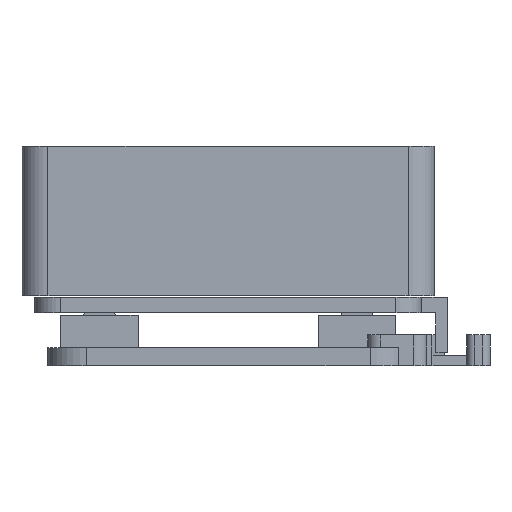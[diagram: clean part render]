
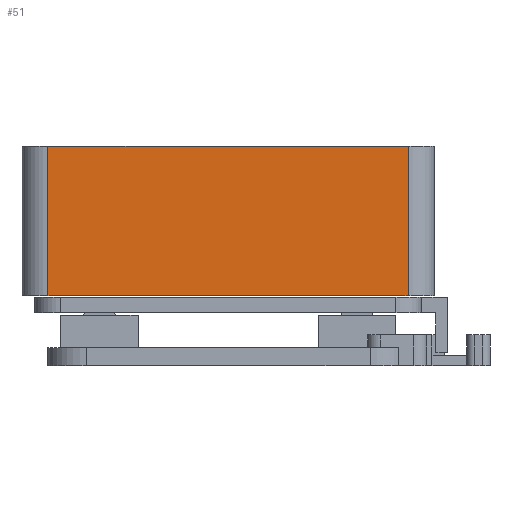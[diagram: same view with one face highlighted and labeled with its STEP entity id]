
A CAD part, left-side view. The second image highlights one B-rep face of the part: STEP entity #51.
In plain terms, the highlighted planar face has unit normal (-1, 0, 0).
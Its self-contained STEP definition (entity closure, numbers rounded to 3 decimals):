
#51 = ADVANCED_FACE('',(#52),#66,.T.);
#52 = FACE_BOUND('',#53,.T.);
#53 = EDGE_LOOP('',(#54,#89,#117,#145,#173,#196));
#54 = ORIENTED_EDGE('',*,*,#55,.T.);
#55 = EDGE_CURVE('',#56,#58,#60,.T.);
#56 = VERTEX_POINT('',#57);
#57 = CARTESIAN_POINT('',(-34.,-14.,0.));
#58 = VERTEX_POINT('',#59);
#59 = CARTESIAN_POINT('',(-34.,-14.,11.6));
#60 = SURFACE_CURVE('',#61,(#65,#77),.PCURVE_S1.);
#61 = LINE('',#62,#63);
#62 = CARTESIAN_POINT('',(-34.,-14.,0.));
#63 = VECTOR('',#64,1.);
#64 = DIRECTION('',(0.,0.,1.));
#65 = PCURVE('',#66,#71);
#66 = PLANE('',#67);
#67 = AXIS2_PLACEMENT_3D('',#68,#69,#70);
#68 = CARTESIAN_POINT('',(-34.,-14.,0.));
#69 = DIRECTION('',(-1.,0.,0.));
#70 = DIRECTION('',(0.,1.,0.));
#71 = DEFINITIONAL_REPRESENTATION('',(#72),#76);
#72 = LINE('',#73,#74);
#73 = CARTESIAN_POINT('',(0.,0.));
#74 = VECTOR('',#75,1.);
#75 = DIRECTION('',(0.,-1.));
#76 = ( GEOMETRIC_REPRESENTATION_CONTEXT(2) 
PARAMETRIC_REPRESENTATION_CONTEXT() REPRESENTATION_CONTEXT('2D SPACE',''
  ) );
#77 = PCURVE('',#78,#83);
#78 = CYLINDRICAL_SURFACE('',#79,2.);
#79 = AXIS2_PLACEMENT_3D('',#80,#81,#82);
#80 = CARTESIAN_POINT('',(-32.,-14.,0.));
#81 = DIRECTION('',(-0.,-0.,-1.));
#82 = DIRECTION('',(1.,0.,0.));
#83 = DEFINITIONAL_REPRESENTATION('',(#84),#88);
#84 = LINE('',#85,#86);
#85 = CARTESIAN_POINT('',(-3.142,0.));
#86 = VECTOR('',#87,1.);
#87 = DIRECTION('',(-0.,-1.));
#88 = ( GEOMETRIC_REPRESENTATION_CONTEXT(2) 
PARAMETRIC_REPRESENTATION_CONTEXT() REPRESENTATION_CONTEXT('2D SPACE',''
  ) );
#89 = ORIENTED_EDGE('',*,*,#90,.T.);
#90 = EDGE_CURVE('',#58,#91,#93,.T.);
#91 = VERTEX_POINT('',#92);
#92 = CARTESIAN_POINT('',(-34.,14.,11.6));
#93 = SURFACE_CURVE('',#94,(#98,#105),.PCURVE_S1.);
#94 = LINE('',#95,#96);
#95 = CARTESIAN_POINT('',(-34.,0.,11.6));
#96 = VECTOR('',#97,1.);
#97 = DIRECTION('',(0.,1.,0.));
#98 = PCURVE('',#66,#99);
#99 = DEFINITIONAL_REPRESENTATION('',(#100),#104);
#100 = LINE('',#101,#102);
#101 = CARTESIAN_POINT('',(14.,-11.6));
#102 = VECTOR('',#103,1.);
#103 = DIRECTION('',(1.,0.));
#104 = ( GEOMETRIC_REPRESENTATION_CONTEXT(2) 
PARAMETRIC_REPRESENTATION_CONTEXT() REPRESENTATION_CONTEXT('2D SPACE',''
  ) );
#105 = PCURVE('',#106,#111);
#106 = PLANE('',#107);
#107 = AXIS2_PLACEMENT_3D('',#108,#109,#110);
#108 = CARTESIAN_POINT('',(1.,0.,11.6));
#109 = DIRECTION('',(0.,0.,1.));
#110 = DIRECTION('',(1.,0.,0.));
#111 = DEFINITIONAL_REPRESENTATION('',(#112),#116);
#112 = LINE('',#113,#114);
#113 = CARTESIAN_POINT('',(-35.,0.));
#114 = VECTOR('',#115,1.);
#115 = DIRECTION('',(0.,1.));
#116 = ( GEOMETRIC_REPRESENTATION_CONTEXT(2) 
PARAMETRIC_REPRESENTATION_CONTEXT() REPRESENTATION_CONTEXT('2D SPACE',''
  ) );
#117 = ORIENTED_EDGE('',*,*,#118,.F.);
#118 = EDGE_CURVE('',#119,#91,#121,.T.);
#119 = VERTEX_POINT('',#120);
#120 = CARTESIAN_POINT('',(-34.,14.,0.));
#121 = SURFACE_CURVE('',#122,(#126,#133),.PCURVE_S1.);
#122 = LINE('',#123,#124);
#123 = CARTESIAN_POINT('',(-34.,14.,0.));
#124 = VECTOR('',#125,1.);
#125 = DIRECTION('',(0.,0.,1.));
#126 = PCURVE('',#66,#127);
#127 = DEFINITIONAL_REPRESENTATION('',(#128),#132);
#128 = LINE('',#129,#130);
#129 = CARTESIAN_POINT('',(28.,0.));
#130 = VECTOR('',#131,1.);
#131 = DIRECTION('',(0.,-1.));
#132 = ( GEOMETRIC_REPRESENTATION_CONTEXT(2) 
PARAMETRIC_REPRESENTATION_CONTEXT() REPRESENTATION_CONTEXT('2D SPACE',''
  ) );
#133 = PCURVE('',#134,#139);
#134 = CYLINDRICAL_SURFACE('',#135,2.);
#135 = AXIS2_PLACEMENT_3D('',#136,#137,#138);
#136 = CARTESIAN_POINT('',(-32.,14.,0.));
#137 = DIRECTION('',(-0.,-0.,-1.));
#138 = DIRECTION('',(1.,0.,0.));
#139 = DEFINITIONAL_REPRESENTATION('',(#140),#144);
#140 = LINE('',#141,#142);
#141 = CARTESIAN_POINT('',(-3.142,0.));
#142 = VECTOR('',#143,1.);
#143 = DIRECTION('',(-0.,-1.));
#144 = ( GEOMETRIC_REPRESENTATION_CONTEXT(2) 
PARAMETRIC_REPRESENTATION_CONTEXT() REPRESENTATION_CONTEXT('2D SPACE',''
  ) );
#145 = ORIENTED_EDGE('',*,*,#146,.F.);
#146 = EDGE_CURVE('',#147,#119,#149,.T.);
#147 = VERTEX_POINT('',#148);
#148 = CARTESIAN_POINT('',(-34.,13.7,0.));
#149 = SURFACE_CURVE('',#150,(#154,#161),.PCURVE_S1.);
#150 = LINE('',#151,#152);
#151 = CARTESIAN_POINT('',(-34.,0.,0.));
#152 = VECTOR('',#153,1.);
#153 = DIRECTION('',(0.,1.,0.));
#154 = PCURVE('',#66,#155);
#155 = DEFINITIONAL_REPRESENTATION('',(#156),#160);
#156 = LINE('',#157,#158);
#157 = CARTESIAN_POINT('',(14.,0.));
#158 = VECTOR('',#159,1.);
#159 = DIRECTION('',(1.,0.));
#160 = ( GEOMETRIC_REPRESENTATION_CONTEXT(2) 
PARAMETRIC_REPRESENTATION_CONTEXT() REPRESENTATION_CONTEXT('2D SPACE',''
  ) );
#161 = PCURVE('',#162,#167);
#162 = PLANE('',#163);
#163 = AXIS2_PLACEMENT_3D('',#164,#165,#166);
#164 = CARTESIAN_POINT('',(1.,0.,0.));
#165 = DIRECTION('',(0.,0.,1.));
#166 = DIRECTION('',(1.,0.,0.));
#167 = DEFINITIONAL_REPRESENTATION('',(#168),#172);
#168 = LINE('',#169,#170);
#169 = CARTESIAN_POINT('',(-35.,0.));
#170 = VECTOR('',#171,1.);
#171 = DIRECTION('',(0.,1.));
#172 = ( GEOMETRIC_REPRESENTATION_CONTEXT(2) 
PARAMETRIC_REPRESENTATION_CONTEXT() REPRESENTATION_CONTEXT('2D SPACE',''
  ) );
#173 = ORIENTED_EDGE('',*,*,#174,.F.);
#174 = EDGE_CURVE('',#175,#147,#177,.T.);
#175 = VERTEX_POINT('',#176);
#176 = CARTESIAN_POINT('',(-34.,-13.7,0.));
#177 = SURFACE_CURVE('',#178,(#182,#189),.PCURVE_S1.);
#178 = LINE('',#179,#180);
#179 = CARTESIAN_POINT('',(-34.,0.,0.));
#180 = VECTOR('',#181,1.);
#181 = DIRECTION('',(0.,1.,0.));
#182 = PCURVE('',#66,#183);
#183 = DEFINITIONAL_REPRESENTATION('',(#184),#188);
#184 = LINE('',#185,#186);
#185 = CARTESIAN_POINT('',(14.,0.));
#186 = VECTOR('',#187,1.);
#187 = DIRECTION('',(1.,0.));
#188 = ( GEOMETRIC_REPRESENTATION_CONTEXT(2) 
PARAMETRIC_REPRESENTATION_CONTEXT() REPRESENTATION_CONTEXT('2D SPACE',''
  ) );
#189 = PCURVE('',#162,#190);
#190 = DEFINITIONAL_REPRESENTATION('',(#191),#195);
#191 = LINE('',#192,#193);
#192 = CARTESIAN_POINT('',(-35.,0.));
#193 = VECTOR('',#194,1.);
#194 = DIRECTION('',(0.,1.));
#195 = ( GEOMETRIC_REPRESENTATION_CONTEXT(2) 
PARAMETRIC_REPRESENTATION_CONTEXT() REPRESENTATION_CONTEXT('2D SPACE',''
  ) );
#196 = ORIENTED_EDGE('',*,*,#197,.F.);
#197 = EDGE_CURVE('',#56,#175,#198,.T.);
#198 = SURFACE_CURVE('',#199,(#203,#210),.PCURVE_S1.);
#199 = LINE('',#200,#201);
#200 = CARTESIAN_POINT('',(-34.,0.,0.));
#201 = VECTOR('',#202,1.);
#202 = DIRECTION('',(0.,1.,0.));
#203 = PCURVE('',#66,#204);
#204 = DEFINITIONAL_REPRESENTATION('',(#205),#209);
#205 = LINE('',#206,#207);
#206 = CARTESIAN_POINT('',(14.,0.));
#207 = VECTOR('',#208,1.);
#208 = DIRECTION('',(1.,0.));
#209 = ( GEOMETRIC_REPRESENTATION_CONTEXT(2) 
PARAMETRIC_REPRESENTATION_CONTEXT() REPRESENTATION_CONTEXT('2D SPACE',''
  ) );
#210 = PCURVE('',#162,#211);
#211 = DEFINITIONAL_REPRESENTATION('',(#212),#216);
#212 = LINE('',#213,#214);
#213 = CARTESIAN_POINT('',(-35.,0.));
#214 = VECTOR('',#215,1.);
#215 = DIRECTION('',(0.,1.));
#216 = ( GEOMETRIC_REPRESENTATION_CONTEXT(2) 
PARAMETRIC_REPRESENTATION_CONTEXT() REPRESENTATION_CONTEXT('2D SPACE',''
  ) );
